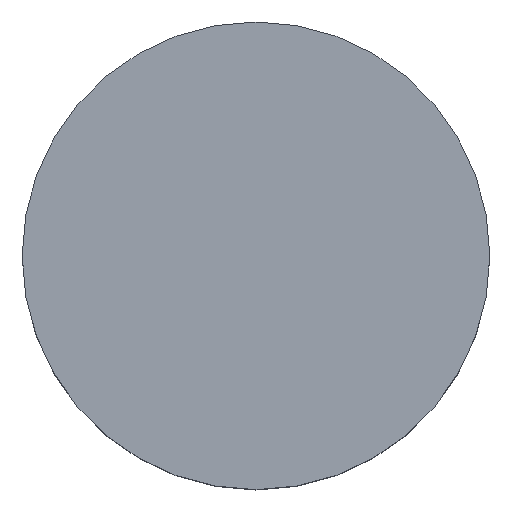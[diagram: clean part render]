
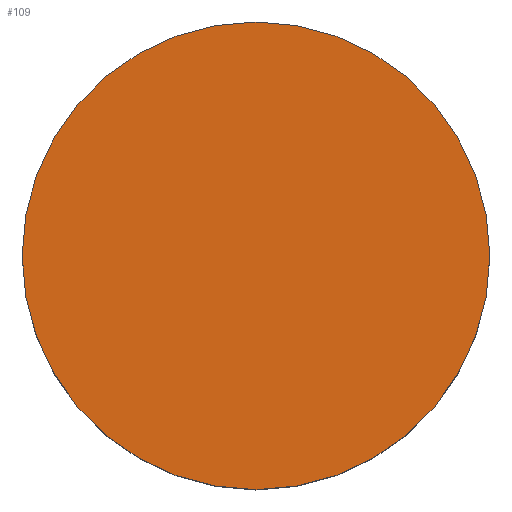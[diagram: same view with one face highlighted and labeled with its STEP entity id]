
A CAD part, top view. The second image highlights one B-rep face of the part: STEP entity #109.
In plain terms, the highlighted planar face has unit normal (0, 0, 1).
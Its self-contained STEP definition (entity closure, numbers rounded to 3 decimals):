
#24 = VERTEX_POINT('',#25);
#25 = CARTESIAN_POINT('',(0.,9.5,13.));
#32 = CYLINDRICAL_SURFACE('',#33,9.5);
#33 = AXIS2_PLACEMENT_3D('',#34,#35,#36);
#34 = CARTESIAN_POINT('',(0.,0.,5.));
#35 = DIRECTION('',(-0.,0.,-1.));
#36 = DIRECTION('',(0.,1.,0.));
#51 = EDGE_CURVE('',#24,#24,#52,.T.);
#52 = SURFACE_CURVE('',#53,(#58,#65),.PCURVE_S1.);
#53 = CIRCLE('',#54,9.5);
#54 = AXIS2_PLACEMENT_3D('',#55,#56,#57);
#55 = CARTESIAN_POINT('',(0.,0.,13.));
#56 = DIRECTION('',(0.,-0.,1.));
#57 = DIRECTION('',(0.,1.,0.));
#58 = PCURVE('',#32,#59);
#59 = DEFINITIONAL_REPRESENTATION('',(#60),#64);
#60 = LINE('',#61,#62);
#61 = CARTESIAN_POINT('',(-0.,-8.));
#62 = VECTOR('',#63,1.);
#63 = DIRECTION('',(-1.,0.));
#64 = ( GEOMETRIC_REPRESENTATION_CONTEXT(2) 
PARAMETRIC_REPRESENTATION_CONTEXT() REPRESENTATION_CONTEXT('2D SPACE',''
  ) );
#65 = PCURVE('',#66,#71);
#66 = PLANE('',#67);
#67 = AXIS2_PLACEMENT_3D('',#68,#69,#70);
#68 = CARTESIAN_POINT('',(0.,0.,13.));
#69 = DIRECTION('',(0.,0.,1.));
#70 = DIRECTION('',(1.,0.,-0.));
#71 = DEFINITIONAL_REPRESENTATION('',(#72),#76);
#72 = CIRCLE('',#73,9.5);
#73 = AXIS2_PLACEMENT_2D('',#74,#75);
#74 = CARTESIAN_POINT('',(0.,0.));
#75 = DIRECTION('',(0.,1.));
#76 = ( GEOMETRIC_REPRESENTATION_CONTEXT(2) 
PARAMETRIC_REPRESENTATION_CONTEXT() REPRESENTATION_CONTEXT('2D SPACE',''
  ) );
#109 = ADVANCED_FACE('',(#110),#66,.T.);
#110 = FACE_BOUND('',#111,.T.);
#111 = EDGE_LOOP('',(#112));
#112 = ORIENTED_EDGE('',*,*,#51,.T.);
